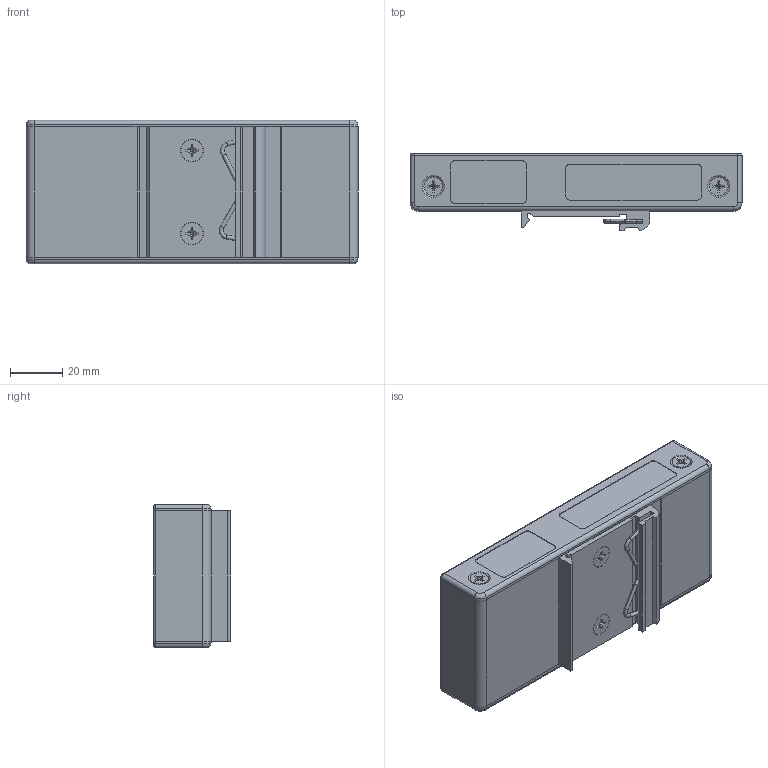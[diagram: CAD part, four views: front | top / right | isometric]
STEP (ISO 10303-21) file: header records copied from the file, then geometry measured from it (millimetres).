
FILE_DESCRIPTION((''),'2;1');
FILE_NAME('CU_CFP_DIN_RAIL_CONT','2007-07-16T',('chrisj'),(''),'PRO/ENGINEER BY PARAMETRIC TECHNOLOGY CORPORATION, 2006300','PRO/ENGINEER BY PARAMETRIC TECHNOLOGY CORPORATION, 2006300','');
FILE_SCHEMA(('AUTOMOTIVE_DESIGN_CC2 { 1 2 10303 214 -1 1 5 2 }'));
Length unit declared in the file: inch
Products named in the file (1): CU_CFP_DIN_RAIL_CONT
Bounding box: 127 x 29.57 x 54.86 mm (x, y, z)
Volume: 59864.1 mm3; surface area: 35038.7 mm2
Topology: 2 solids, 2 shells, 1108 faces, 3030 edges, 1880 vertices
Faces by surface type: plane 821, bspline 128, cylinder 113, cone 36, torus 10
Entity records: 36489 total; most frequent: CARTESIAN_POINT 9638, ORIENTED_EDGE 5820, DIRECTION 4890, EDGE_CURVE 2910, VECTOR 2498, LINE 2498, VERTEX_POINT 1994, AXIS2_PLACEMENT_3D 1196
